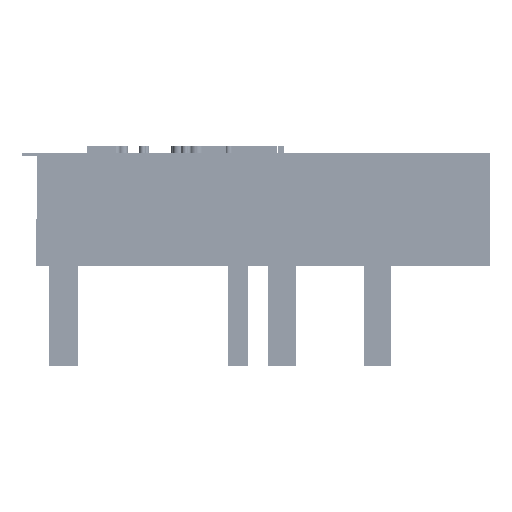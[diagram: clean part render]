
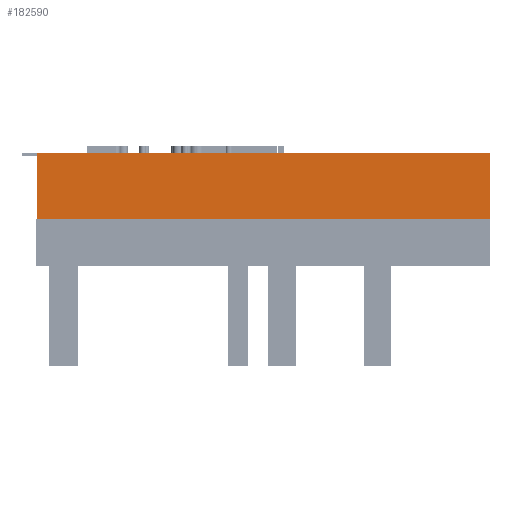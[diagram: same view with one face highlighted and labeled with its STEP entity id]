
A CAD part, left-side view. The second image highlights one B-rep face of the part: STEP entity #182590.
In plain terms, the highlighted planar face has unit normal (-1, 0, 0).
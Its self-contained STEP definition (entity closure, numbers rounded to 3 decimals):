
#47481 = LINE ( 'NONE', #218786, #263197 ) ;
#53708 = CARTESIAN_POINT ( 'NONE',  ( 103049.06, -164866.512, 0. ) ) ;
#76495 = DIRECTION ( 'NONE',  ( 1., 0., 0. ) ) ;
#77184 = VECTOR ( 'NONE', #284859, 1000. ) ;
#90515 = VERTEX_POINT ( 'NONE', #260137 ) ;
#92099 = EDGE_CURVE ( 'NONE', #124883, #121368, #162320, .T. ) ;
#102684 = DIRECTION ( 'NONE',  ( 0., 0., -1. ) ) ;
#118418 = ORIENTED_EDGE ( 'NONE', *, *, #199995, .T. ) ;
#121368 = VERTEX_POINT ( 'NONE', #313108 ) ;
#124883 = VERTEX_POINT ( 'NONE', #161345 ) ;
#127982 = DIRECTION ( 'NONE',  ( 0., -1., 0. ) ) ;
#148291 = VERTEX_POINT ( 'NONE', #53708 ) ;
#150535 = LINE ( 'NONE', #281534, #77184 ) ;
#155961 = CARTESIAN_POINT ( 'NONE',  ( 103049.06, -164866.512, 1000. ) ) ;
#158338 = VECTOR ( 'NONE', #127982, 1000. ) ;
#161345 = CARTESIAN_POINT ( 'NONE',  ( 103049.06, -164866.512, 1000. ) ) ;
#162320 = LINE ( 'NONE', #336765, #325006 ) ;
#165241 = DIRECTION ( 'NONE',  ( 0., 0., 1. ) ) ;
#182590 = ADVANCED_FACE ( 'NONE', ( #211803 ), #311692, .F. ) ;
#186530 = EDGE_CURVE ( 'NONE', #90515, #121368, #47481, .T. ) ;
#199995 = EDGE_CURVE ( 'NONE', #148291, #90515, #252077, .T. ) ;
#209624 = DIRECTION ( 'NONE',  ( 0., -1., 0. ) ) ;
#211803 = FACE_OUTER_BOUND ( 'NONE', #275986, .T. ) ;
#218786 = CARTESIAN_POINT ( 'NONE',  ( 103049.06, -171674.344, 1000. ) ) ;
#244171 = ORIENTED_EDGE ( 'NONE', *, *, #186530, .T. ) ;
#252077 = LINE ( 'NONE', #334719, #158338 ) ;
#260137 = CARTESIAN_POINT ( 'NONE',  ( 103049.06, -171674.344, 0. ) ) ;
#263197 = VECTOR ( 'NONE', #165241, 1000. ) ;
#263742 = ORIENTED_EDGE ( 'NONE', *, *, #92099, .F. ) ;
#275986 = EDGE_LOOP ( 'NONE', ( #118418, #244171, #263742, #331015 ) ) ;
#281534 = CARTESIAN_POINT ( 'NONE',  ( 103049.06, -164866.512, 1000. ) ) ;
#284859 = DIRECTION ( 'NONE',  ( 0., 0., -1. ) ) ;
#299076 = EDGE_CURVE ( 'NONE', #124883, #148291, #150535, .T. ) ;
#311692 = PLANE ( 'NONE',  #327130 ) ;
#313108 = CARTESIAN_POINT ( 'NONE',  ( 103049.06, -171674.344, 1000. ) ) ;
#325006 = VECTOR ( 'NONE', #209624, 1000. ) ;
#327130 = AXIS2_PLACEMENT_3D ( 'NONE', #155961, #76495, #102684 ) ;
#331015 = ORIENTED_EDGE ( 'NONE', *, *, #299076, .T. ) ;
#334719 = CARTESIAN_POINT ( 'NONE',  ( 103049.06, -164866.512, 0. ) ) ;
#336765 = CARTESIAN_POINT ( 'NONE',  ( 103049.06, -164866.512, 1000. ) ) ;
